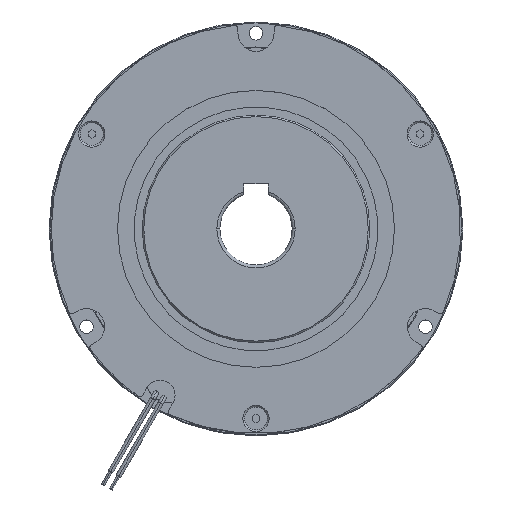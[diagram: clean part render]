
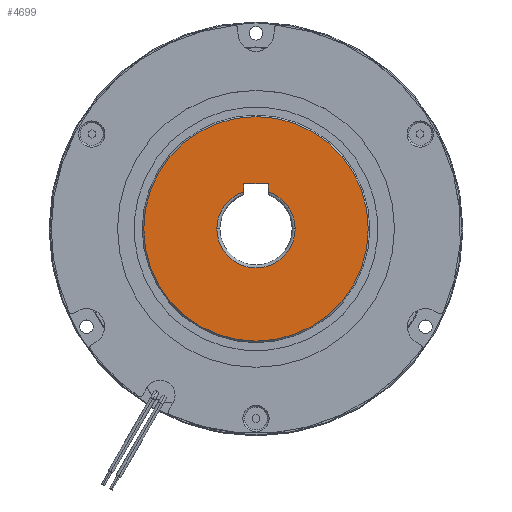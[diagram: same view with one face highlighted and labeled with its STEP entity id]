
A CAD part, top view. The second image highlights one B-rep face of the part: STEP entity #4699.
In plain terms, the highlighted planar face has unit normal (0, 0, 1).
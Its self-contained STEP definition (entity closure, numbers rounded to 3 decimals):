
#125 = LINE ( 'NONE', #4292, #127 ) ;
#127 = VECTOR ( 'NONE', #4293, 1000. ) ;
#199 = CIRCLE ( 'NONE', #6964, 37.3 ) ;
#207 = LINE ( 'NONE', #8871, #210 ) ;
#210 = VECTOR ( 'NONE', #8873, 1000. ) ;
#211 = LINE ( 'NONE', #8875, #214 ) ;
#214 = VECTOR ( 'NONE', #8876, 1000. ) ;
#437 = PLANE ( 'NONE',  #1566 ) ;
#444 = CARTESIAN_POINT ( 'NONE',  ( 0., 0., 23.7 ) ) ;
#445 = DIRECTION ( 'NONE',  ( 0., 0., 1. ) ) ;
#446 = DIRECTION ( 'NONE',  ( 1., 0., 0. ) ) ;
#1566 = AXIS2_PLACEMENT_3D ( 'NONE', #444, #445, #446 ) ;
#2997 = CIRCLE ( 'NONE', #12612, 13. ) ;
#3932 = EDGE_CURVE ( 'NONE', #10502, #7188, #125, .T. ) ;
#3978 = EDGE_CURVE ( 'NONE', #7216, #7200, #199, .T. ) ;
#3982 = EDGE_CURVE ( 'NONE', #7288, #10502, #207, .T. ) ;
#3984 = EDGE_CURVE ( 'NONE', #10500, #7288, #211, .T. ) ;
#4292 = CARTESIAN_POINT ( 'NONE',  ( -4., 15., 23.7 ) ) ;
#4293 = DIRECTION ( 'NONE',  ( 0., -1., 0. ) ) ;
#4446 = ORIENTED_EDGE ( 'NONE', *, *, #3984, .F. ) ;
#4447 = ORIENTED_EDGE ( 'NONE', *, *, #6666, .T. ) ;
#4448 = ORIENTED_EDGE ( 'NONE', *, *, #9049, .T. ) ;
#4449 = ORIENTED_EDGE ( 'NONE', *, *, #9052, .T. ) ;
#4450 = ORIENTED_EDGE ( 'NONE', *, *, #3932, .F. ) ;
#4451 = ORIENTED_EDGE ( 'NONE', *, *, #3982, .F. ) ;
#4452 = ORIENTED_EDGE ( 'NONE', *, *, #3978, .T. ) ;
#4453 = ORIENTED_EDGE ( 'NONE', *, *, #9037, .T. ) ;
#4699 = ADVANCED_FACE ( 'NONE', ( #13472, #13476 ), #437, .T. ) ;
#5021 = EDGE_LOOP ( 'NONE', ( #4446, #4447, #4448, #4449, #4450, #4451 ) ) ;
#5070 = EDGE_LOOP ( 'NONE', ( #4452, #4453 ) ) ;
#5822 = CARTESIAN_POINT ( 'NONE',  ( 0., 0., 23.7 ) ) ;
#5823 = DIRECTION ( 'NONE',  ( 0., 0., -1. ) ) ;
#5824 = DIRECTION ( 'NONE',  ( 1., 0., 0. ) ) ;
#5878 = CARTESIAN_POINT ( 'NONE',  ( -13., 0., 23.7 ) ) ;
#5888 = CARTESIAN_POINT ( 'NONE',  ( -4., 12.369, 23.7 ) ) ;
#5889 = CARTESIAN_POINT ( 'NONE',  ( 13., 0., 23.7 ) ) ;
#5900 = CARTESIAN_POINT ( 'NONE',  ( 37.3, 0., 23.7 ) ) ;
#5916 = CARTESIAN_POINT ( 'NONE',  ( -37.3, 0., 23.7 ) ) ;
#5988 = CARTESIAN_POINT ( 'NONE',  ( 4., 15., 23.7 ) ) ;
#6666 = EDGE_CURVE ( 'NONE', #10500, #7189, #2997, .T. ) ;
#6964 = AXIS2_PLACEMENT_3D ( 'NONE', #8864, #8865, #8866 ) ;
#7178 = VERTEX_POINT ( 'NONE', #5878 ) ;
#7188 = VERTEX_POINT ( 'NONE', #5888 ) ;
#7189 = VERTEX_POINT ( 'NONE', #5889 ) ;
#7200 = VERTEX_POINT ( 'NONE', #5900 ) ;
#7216 = VERTEX_POINT ( 'NONE', #5916 ) ;
#7288 = VERTEX_POINT ( 'NONE', #5988 ) ;
#8529 = CIRCLE ( 'NONE', #12683, 37.3 ) ;
#8542 = CIRCLE ( 'NONE', #12691, 13. ) ;
#8548 = CIRCLE ( 'NONE', #12693, 13. ) ;
#8864 = CARTESIAN_POINT ( 'NONE',  ( 0., 0., 23.7 ) ) ;
#8865 = DIRECTION ( 'NONE',  ( 0., 0., 1. ) ) ;
#8866 = DIRECTION ( 'NONE',  ( 1., 0., 0. ) ) ;
#8871 = CARTESIAN_POINT ( 'NONE',  ( -4., 15., 23.7 ) ) ;
#8873 = DIRECTION ( 'NONE',  ( -1., 0., 0. ) ) ;
#8875 = CARTESIAN_POINT ( 'NONE',  ( 4., 15., 23.7 ) ) ;
#8876 = DIRECTION ( 'NONE',  ( 0., 1., 0. ) ) ;
#9037 = EDGE_CURVE ( 'NONE', #7200, #7216, #8529, .T. ) ;
#9049 = EDGE_CURVE ( 'NONE', #7189, #7178, #8542, .T. ) ;
#9052 = EDGE_CURVE ( 'NONE', #7178, #7188, #8548, .T. ) ;
#9511 = CARTESIAN_POINT ( 'NONE',  ( 4., 12.369, 23.7 ) ) ;
#9513 = CARTESIAN_POINT ( 'NONE',  ( -4., 15., 23.7 ) ) ;
#10500 = VERTEX_POINT ( 'NONE', #9511 ) ;
#10502 = VERTEX_POINT ( 'NONE', #9513 ) ;
#11872 = CARTESIAN_POINT ( 'NONE',  ( 0., 0., 23.7 ) ) ;
#11873 = DIRECTION ( 'NONE',  ( 0., 0., 1. ) ) ;
#11875 = DIRECTION ( 'NONE',  ( 1., 0., 0. ) ) ;
#11937 = CARTESIAN_POINT ( 'NONE',  ( 0., 0., 23.7 ) ) ;
#11938 = DIRECTION ( 'NONE',  ( 0., 0., -1. ) ) ;
#11939 = DIRECTION ( 'NONE',  ( 1., 0., 0. ) ) ;
#11953 = CARTESIAN_POINT ( 'NONE',  ( 0., 0., 23.7 ) ) ;
#11954 = DIRECTION ( 'NONE',  ( 0., 0., -1. ) ) ;
#11955 = DIRECTION ( 'NONE',  ( 1., 0., 0. ) ) ;
#12612 = AXIS2_PLACEMENT_3D ( 'NONE', #5822, #5823, #5824 ) ;
#12683 = AXIS2_PLACEMENT_3D ( 'NONE', #11872, #11873, #11875 ) ;
#12691 = AXIS2_PLACEMENT_3D ( 'NONE', #11937, #11938, #11939 ) ;
#12693 = AXIS2_PLACEMENT_3D ( 'NONE', #11953, #11954, #11955 ) ;
#13472 = FACE_BOUND ( 'NONE', #5021, .T. ) ;
#13476 = FACE_OUTER_BOUND ( 'NONE', #5070, .T. ) ;
